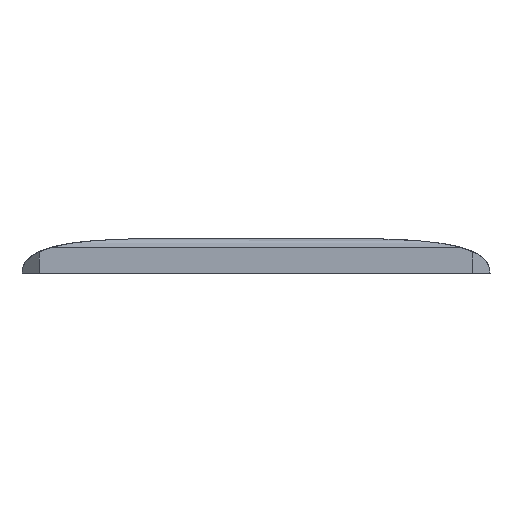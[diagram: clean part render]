
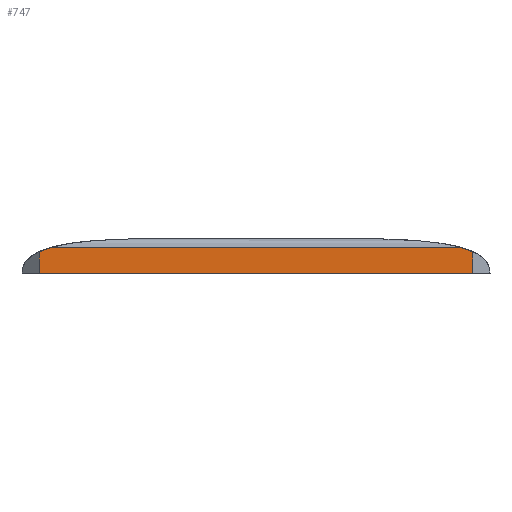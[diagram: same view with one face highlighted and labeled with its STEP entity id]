
A CAD part, front view. The second image highlights one B-rep face of the part: STEP entity #747.
In plain terms, the highlighted planar face has unit normal (0, -1, 0).
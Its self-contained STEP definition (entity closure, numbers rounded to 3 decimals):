
#464 = DIRECTION ( 'NONE',  ( 0., 0., -1. ) ) ;
#747 = ADVANCED_FACE ( 'NONE', ( #11556 ), #15176, .F. ) ;
#1146 = EDGE_LOOP ( 'NONE', ( #4810, #13347, #13948, #25733, #5490, #8171 ) ) ;
#2827 = EDGE_CURVE ( 'NONE', #26834, #7375, #7120, .T. ) ;
#2925 = VERTEX_POINT ( 'NONE', #12192 ) ;
#4561 = VERTEX_POINT ( 'NONE', #16053 ) ;
#4810 = ORIENTED_EDGE ( 'NONE', *, *, #14461, .T. ) ;
#5057 = CARTESIAN_POINT ( 'NONE',  ( -6.315, -11.507, 6.61 ) ) ;
#5418 = CARTESIAN_POINT ( 'NONE',  ( 70.015, -11.507, 4.28 ) ) ;
#5490 = ORIENTED_EDGE ( 'NONE', *, *, #17507, .T. ) ;
#7120 = LINE ( 'NONE', #21535, #13385 ) ;
#7375 = VERTEX_POINT ( 'NONE', #10383 ) ;
#7624 = CARTESIAN_POINT ( 'NONE',  ( 68.557, -11.507, 4.871 ) ) ;
#8171 = ORIENTED_EDGE ( 'NONE', *, *, #17625, .F. ) ;
#8220 = LINE ( 'NONE', #17087, #12184 ) ;
#8294 = EDGE_CURVE ( 'NONE', #14920, #26834, #13037, .T. ) ;
#9042 = CARTESIAN_POINT ( 'NONE',  ( 70.015, -11.507, 0.461 ) ) ;
#9736 = CARTESIAN_POINT ( 'NONE',  ( -6.315, -11.507, 0.461 ) ) ;
#9922 = CARTESIAN_POINT ( 'NONE',  ( -6.315, -11.507, 4.28 ) ) ;
#10383 = CARTESIAN_POINT ( 'NONE',  ( -6.315, -11.507, 0.461 ) ) ;
#10654 = VECTOR ( 'NONE', #24281, 1000. ) ;
#11375 = CARTESIAN_POINT ( 'NONE',  ( 69.339, -11.507, 4.596 ) ) ;
#11440 = VERTEX_POINT ( 'NONE', #9042 ) ;
#11556 = FACE_OUTER_BOUND ( 'NONE', #1146, .T. ) ;
#12138 = CARTESIAN_POINT ( 'NONE',  ( -3.978, -11.507, 5.11 ) ) ;
#12184 = VECTOR ( 'NONE', #25384, 1000. ) ;
#12192 = CARTESIAN_POINT ( 'NONE',  ( 70.015, -11.507, 4.28 ) ) ;
#13037 = B_SPLINE_CURVE_WITH_KNOTS ( 'NONE', 3,
 ( #12138, #16305, #24467, #9922 ),
 .UNSPECIFIED., .F., .F.,
 ( 4, 4 ),
 ( 0.679, 0.762 ),
 .UNSPECIFIED. ) ;
#13347 = ORIENTED_EDGE ( 'NONE', *, *, #15338, .T. ) ;
#13385 = VECTOR ( 'NONE', #464, 1000. ) ;
#13635 = DIRECTION ( 'NONE',  ( 0., 0., 1. ) ) ;
#13769 = DIRECTION ( 'NONE',  ( 1., 0., 0. ) ) ;
#13948 = ORIENTED_EDGE ( 'NONE', *, *, #8294, .T. ) ;
#14461 = EDGE_CURVE ( 'NONE', #2925, #4561, #26124, .T. ) ;
#14920 = VERTEX_POINT ( 'NONE', #18335 ) ;
#15176 = PLANE ( 'NONE',  #27276 ) ;
#15338 = EDGE_CURVE ( 'NONE', #4561, #14920, #24142, .T. ) ;
#15583 = DIRECTION ( 'NONE',  ( 0., 1., 0. ) ) ;
#15701 = CARTESIAN_POINT ( 'NONE',  ( 12.144, -11.507, 5.11 ) ) ;
#16053 = CARTESIAN_POINT ( 'NONE',  ( 67.678, -11.507, 5.11 ) ) ;
#16123 = LINE ( 'NONE', #9736, #21053 ) ;
#16305 = CARTESIAN_POINT ( 'NONE',  ( -4.857, -11.507, 4.871 ) ) ;
#17087 = CARTESIAN_POINT ( 'NONE',  ( 70.015, -11.507, 6.61 ) ) ;
#17262 = CARTESIAN_POINT ( 'NONE',  ( -6.315, -11.507, 4.28 ) ) ;
#17507 = EDGE_CURVE ( 'NONE', #7375, #11440, #16123, .T. ) ;
#17625 = EDGE_CURVE ( 'NONE', #2925, #11440, #8220, .T. ) ;
#18335 = CARTESIAN_POINT ( 'NONE',  ( -3.978, -11.507, 5.11 ) ) ;
#19830 = CARTESIAN_POINT ( 'NONE',  ( 67.678, -11.507, 5.11 ) ) ;
#21053 = VECTOR ( 'NONE', #13769, 1000. ) ;
#21535 = CARTESIAN_POINT ( 'NONE',  ( -6.315, -11.507, 6.61 ) ) ;
#24142 = LINE ( 'NONE', #15701, #10654 ) ;
#24281 = DIRECTION ( 'NONE',  ( -1., 0., 0. ) ) ;
#24467 = CARTESIAN_POINT ( 'NONE',  ( -5.639, -11.507, 4.596 ) ) ;
#25384 = DIRECTION ( 'NONE',  ( 0., 0., -1. ) ) ;
#25733 = ORIENTED_EDGE ( 'NONE', *, *, #2827, .T. ) ;
#26124 = B_SPLINE_CURVE_WITH_KNOTS ( 'NONE', 3,
 ( #5418, #11375, #7624, #19830 ),
 .UNSPECIFIED., .F., .F.,
 ( 4, 4 ),
 ( 0.238, 0.321 ),
 .UNSPECIFIED. ) ;
#26834 = VERTEX_POINT ( 'NONE', #17262 ) ;
#27276 = AXIS2_PLACEMENT_3D ( 'NONE', #5057, #15583, #13635 ) ;
